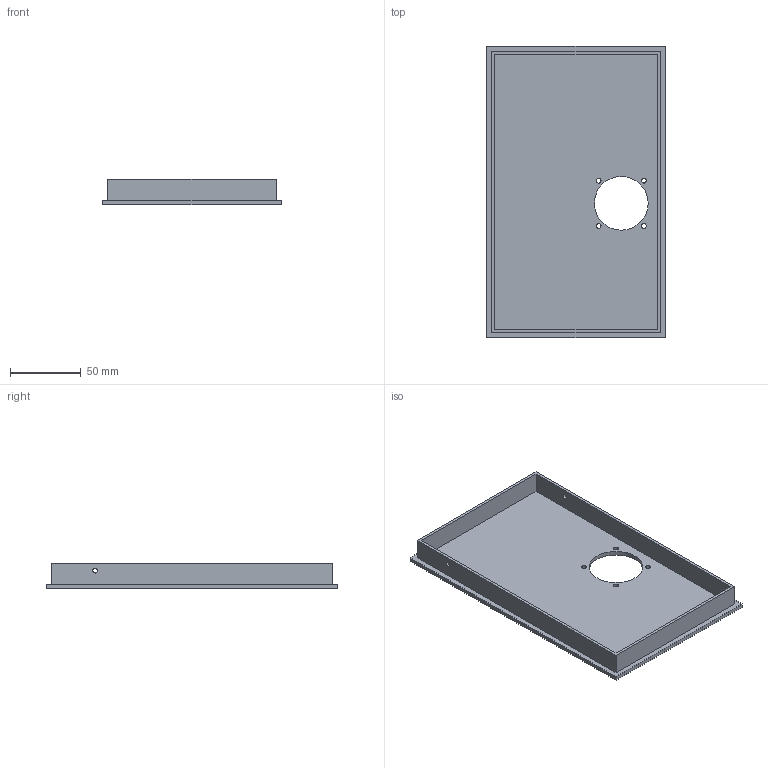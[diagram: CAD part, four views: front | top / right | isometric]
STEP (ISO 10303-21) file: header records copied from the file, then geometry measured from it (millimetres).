
FILE_DESCRIPTION(('Open CASCADE Model'),'2;1');
FILE_NAME('Open CASCADE Shape Model','2026-07-27T09:36:00',('Author'),( 'Open CASCADE'),'Open CASCADE STEP processor 7.9','Open CASCADE 7.9' ,'Unknown');
FILE_SCHEMA(('AUTOMOTIVE_DESIGN { 1 0 10303 214 1 1 1 1 }'));
Length unit declared in the file: millimetre
Products named in the file (1): Open CASCADE STEP translator 7.9 2
Bounding box: 126 x 206 x 18 mm (x, y, z)
Volume: 93148.4 mm3; surface area: 70883.9 mm2
Topology: 1 solids, 1 shells, 23 faces, 57 edges, 38 vertices
Faces by surface type: plane 16, cylinder 7
Full cylindrical faces by diameter (mm): 3.4 x6, 38 x1
Entity records: 1500 total; most frequent: CARTESIAN_POINT 305, DIRECTION 221, LINE 143, VECTOR 143, ORIENTED_EDGE 114, PCURVE 114, DEFINITIONAL_REPRESENTATION 114, EDGE_CURVE 57
